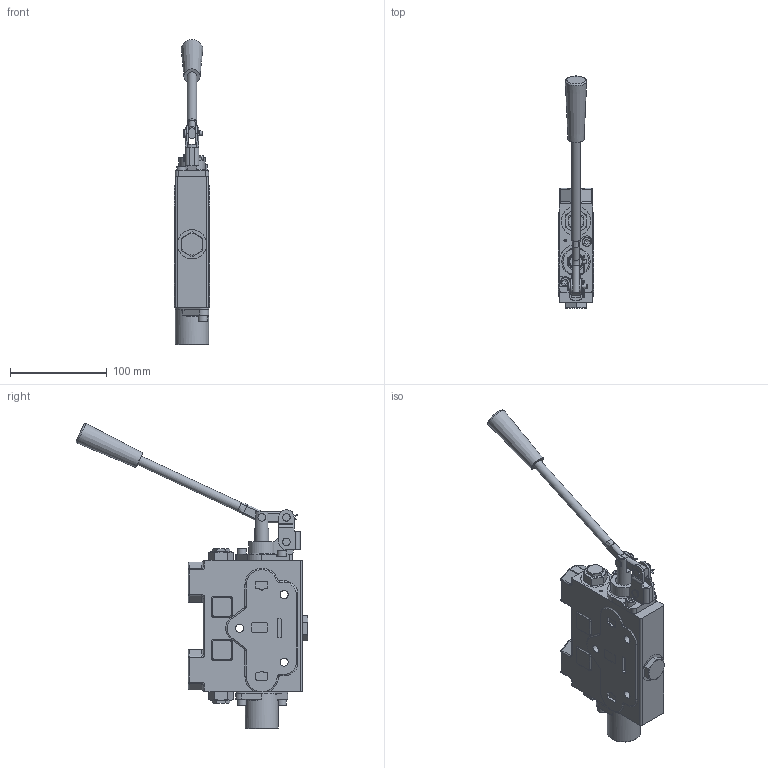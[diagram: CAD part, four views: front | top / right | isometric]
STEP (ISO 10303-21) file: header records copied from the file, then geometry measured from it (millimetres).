
FILE_DESCRIPTION((''),'2;1');
FILE_NAME('C:\Vault\Workspace\z_ShellModels\SV\SVL1CA1-Shell.stp','2012-02-09T11:19:39',('PetersW'),(''),'Autodesk Inventor 2011','Autodesk Inventor 2011','');
FILE_SCHEMA(('AUTOMOTIVE_DESIGN { 1 0 10303 214 1 1 1 1 }'));
Length unit declared in the file: inch
Products named in the file (1): SVL1CA1-Shell
Bounding box: 36.5 x 239.54 x 315.35 mm (x, y, z)
Volume: 585872.8 mm3; surface area: 105696 mm2
Topology: 9 solids, 31 shells, 1003 faces, 2543 edges, 1608 vertices
Faces by surface type: plane 467, cylinder 314, cone 104, torus 82, bspline 20, sphere 16
Full cylindrical faces by diameter (mm): 2.381 x1, 2.388 x2, 2.667 x1, 4.661 x3, 4.75 x8, 4.801 x2, 4.826 x7, 4.978 x5, 6.096 x1, 6.35 x4, 6.401 x2, 6.731 x6, 7.798 x1, 7.925 x3, 8.331 x3, 8.712 x2, 9.525 x6, 9.931 x1, 12.764 x1, 14.275 x1, 14.63 x2, 15.875 x4, 15.938 x2, 16.751 x1, 16.764 x6, 16.815 x2, 17.066 x3, 17.247 x1, 17.475 x1, 17.501 x5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
Entity records: 30327 total; most frequent: CARTESIAN_POINT 6310, DIRECTION 4828, ORIENTED_EDGE 4510, EDGE_CURVE 2255, AXIS2_PLACEMENT_3D 1806, VERTEX_POINT 1521, EDGE_LOOP 1294, VECTOR 1216
